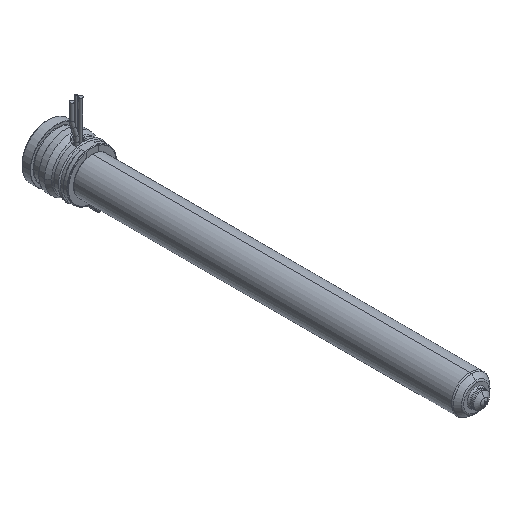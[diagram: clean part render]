
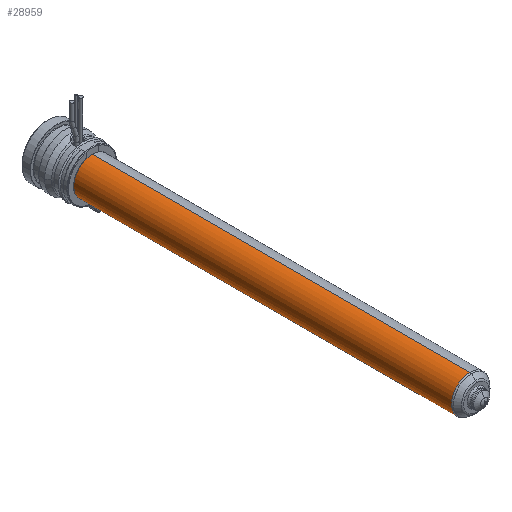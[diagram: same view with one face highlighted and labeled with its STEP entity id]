
A CAD part, isometric view. The second image highlights one B-rep face of the part: STEP entity #28959.
In plain terms, the highlighted cylindrical face has radius 9 mm (diameter 18 mm), a partial arc.
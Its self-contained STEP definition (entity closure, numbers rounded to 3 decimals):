
#28350=CARTESIAN_POINT('',(0.,-205.836,0.));
#28351=DIRECTION('',(0.,-1.,0.));
#28352=DIRECTION('',(0.,0.,1.));
#28353=AXIS2_PLACEMENT_3D('',#28350,#28351,#28352);
#28358=CARTESIAN_POINT('',(0.,-22.,0.));
#28359=DIRECTION('',(0.,-1.,0.));
#28360=DIRECTION('',(0.,0.,1.));
#28361=AXIS2_PLACEMENT_3D('',#28358,#28359,#28360);
#28366=DIRECTION('',(0.,-1.,0.));
#28367=VECTOR('',#28366,183.836);
#28368=CARTESIAN_POINT('',(0.,-22.,9.));
#28369=LINE('',#28368,#28367);
#28381=DIRECTION('',(0.,-1.,0.));
#28382=VECTOR('',#28381,183.836);
#28383=CARTESIAN_POINT('',(0.,-22.,-9.));
#28384=LINE('',#28383,#28382);
#28576=CARTESIAN_POINT('',(0.,-22.,9.));
#28577=CARTESIAN_POINT('',(0.,-205.836,9.));
#28578=VERTEX_POINT('',#28576);
#28579=VERTEX_POINT('',#28577);
#28602=CARTESIAN_POINT('',(0.,-22.,-9.));
#28603=CARTESIAN_POINT('',(0.,-205.836,-9.));
#28604=VERTEX_POINT('',#28602);
#28605=VERTEX_POINT('',#28603);
#28945=CARTESIAN_POINT('',(0.,-8.2,0.));
#28946=DIRECTION('',(0.,-1.,0.));
#28947=DIRECTION('',(0.,0.,1.));
#28948=AXIS2_PLACEMENT_3D('',#28945,#28946,#28947);
#28949=CYLINDRICAL_SURFACE('',#28948,9.);
#28951=ORIENTED_EDGE('',*,*,#28950,.T.);
#28952=ORIENTED_EDGE('',*,*,#28940,.T.);
#28954=ORIENTED_EDGE('',*,*,#28953,.F.);
#28956=ORIENTED_EDGE('',*,*,#28955,.F.);
#28957=EDGE_LOOP('',(#28951,#28952,#28954,#28956));
#28958=FACE_OUTER_BOUND('',#28957,.F.);
#28959=ADVANCED_FACE('',(#28958),#28949,.T.);
#28354=CIRCLE('',#28353,9.);
#28362=CIRCLE('',#28361,9.);
#28940=EDGE_CURVE('',#28579,#28605,#28354,.T.);
#28950=EDGE_CURVE('',#28578,#28579,#28369,.T.);
#28953=EDGE_CURVE('',#28604,#28605,#28384,.T.);
#28955=EDGE_CURVE('',#28578,#28604,#28362,.T.);
